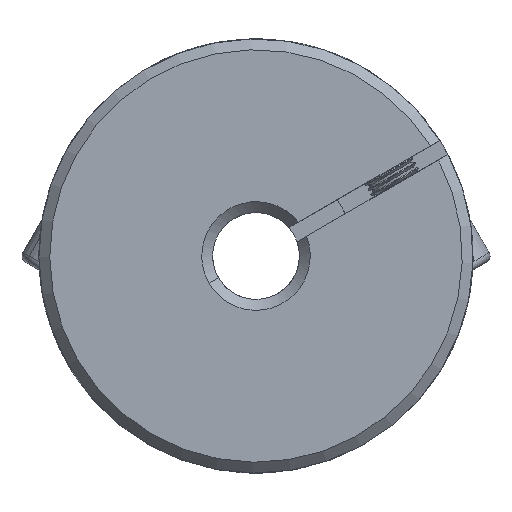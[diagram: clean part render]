
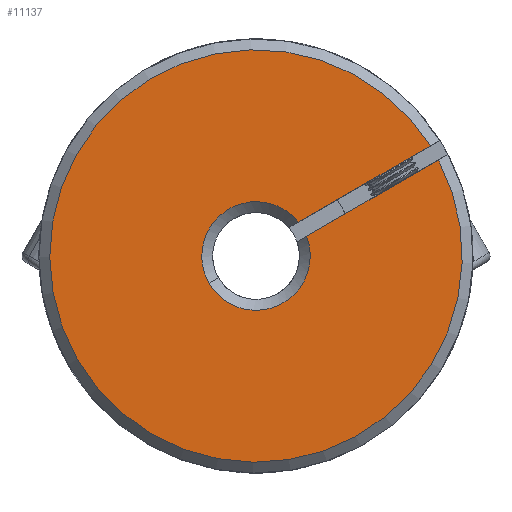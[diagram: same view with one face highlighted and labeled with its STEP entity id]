
A CAD part, front view. The second image highlights one B-rep face of the part: STEP entity #11137.
In plain terms, the highlighted planar face has unit normal (0, -1, 0).
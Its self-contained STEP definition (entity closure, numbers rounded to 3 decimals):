
#383 = AXIS2_PLACEMENT_3D ( 'NONE', #3457, #5644, #9984 ) ;
#970 = VERTEX_POINT ( 'NONE', #7294 ) ;
#1033 = CIRCLE ( 'NONE', #383, 5. ) ;
#1204 = EDGE_CURVE ( 'NONE', #3922, #12262, #8648, .T. ) ;
#1585 = ORIENTED_EDGE ( 'NONE', *, *, #8273, .T. ) ;
#1819 = CARTESIAN_POINT ( 'NONE',  ( -1.447, -31.239, 40. ) ) ;
#1850 = CARTESIAN_POINT ( 'NONE',  ( 3.209, -31.239, 41.824 ) ) ;
#2224 = DIRECTION ( 'NONE',  ( -0.866, 0., -0.5 ) ) ;
#2698 = AXIS2_PLACEMENT_3D ( 'NONE', #1819, #13669, #8306 ) ;
#2722 = CARTESIAN_POINT ( 'NONE',  ( 15.367, -31.239, 48.848 ) ) ;
#3457 = CARTESIAN_POINT ( 'NONE',  ( -1.447, -31.239, 40. ) ) ;
#3548 = DIRECTION ( 'NONE',  ( 0., 1., 0. ) ) ;
#3922 = VERTEX_POINT ( 'NONE', #4446 ) ;
#3939 = VERTEX_POINT ( 'NONE', #11019 ) ;
#3957 = ORIENTED_EDGE ( 'NONE', *, *, #11459, .F. ) ;
#4199 = CARTESIAN_POINT ( 'NONE',  ( 1.58, -31.239, 42.615 ) ) ;
#4446 = CARTESIAN_POINT ( 'NONE',  ( 14.616, -31.239, 50.147 ) ) ;
#4771 = CARTESIAN_POINT ( 'NONE',  ( 52.98, -31.239, 45.743 ) ) ;
#5060 = VECTOR ( 'NONE', #11204, 1000. ) ;
#5644 = DIRECTION ( 'NONE',  ( 0., 1., 0. ) ) ;
#5790 = ORIENTED_EDGE ( 'NONE', *, *, #7540, .T. ) ;
#6668 = DIRECTION ( 'NONE',  ( 0.5, 0., -0.866 ) ) ;
#7294 = CARTESIAN_POINT ( 'NONE',  ( 2.458, -31.239, 43.122 ) ) ;
#7540 = EDGE_CURVE ( 'NONE', #11279, #3939, #12201, .T. ) ;
#7620 = DIRECTION ( 'NONE',  ( 0., -1., 0. ) ) ;
#7895 = EDGE_CURVE ( 'NONE', #11279, #12262, #8449, .T. ) ;
#8273 = EDGE_CURVE ( 'NONE', #3939, #970, #1033, .T. ) ;
#8306 = DIRECTION ( 'NONE',  ( 0.5, 0., -0.866 ) ) ;
#8359 = VECTOR ( 'NONE', #2224, 1000. ) ;
#8449 = LINE ( 'NONE', #8962, #5060 ) ;
#8648 = CIRCLE ( 'NONE', #13092, 19. ) ;
#8673 = AXIS2_PLACEMENT_3D ( 'NONE', #4771, #3548, #11208 ) ;
#8962 = CARTESIAN_POINT ( 'NONE',  ( 2.33, -31.239, 41.316 ) ) ;
#9020 = PLANE ( 'NONE',  #8673 ) ;
#9984 = DIRECTION ( 'NONE',  ( 0.5, 0., -0.866 ) ) ;
#10573 = LINE ( 'NONE', #4199, #8359 ) ;
#10927 = ORIENTED_EDGE ( 'NONE', *, *, #1204, .T. ) ;
#11019 = CARTESIAN_POINT ( 'NONE',  ( -5.776, -31.239, 37.499 ) ) ;
#11137 = ADVANCED_FACE ( 'NONE', ( #11260 ), #9020, .F. ) ;
#11204 = DIRECTION ( 'NONE',  ( 0.866, 0., 0.5 ) ) ;
#11208 = DIRECTION ( 'NONE',  ( 0.5, 0., -0.866 ) ) ;
#11260 = FACE_OUTER_BOUND ( 'NONE', #12361, .T. ) ;
#11279 = VERTEX_POINT ( 'NONE', #1850 ) ;
#11459 = EDGE_CURVE ( 'NONE', #3922, #970, #10573, .T. ) ;
#11857 = ORIENTED_EDGE ( 'NONE', *, *, #7895, .F. ) ;
#12201 = CIRCLE ( 'NONE', #2698, 5. ) ;
#12262 = VERTEX_POINT ( 'NONE', #2722 ) ;
#12361 = EDGE_LOOP ( 'NONE', ( #11857, #5790, #1585, #3957, #10927 ) ) ;
#13092 = AXIS2_PLACEMENT_3D ( 'NONE', #13132, #7620, #6668 ) ;
#13132 = CARTESIAN_POINT ( 'NONE',  ( -1.447, -31.239, 40. ) ) ;
#13669 = DIRECTION ( 'NONE',  ( 0., 1., 0. ) ) ;
